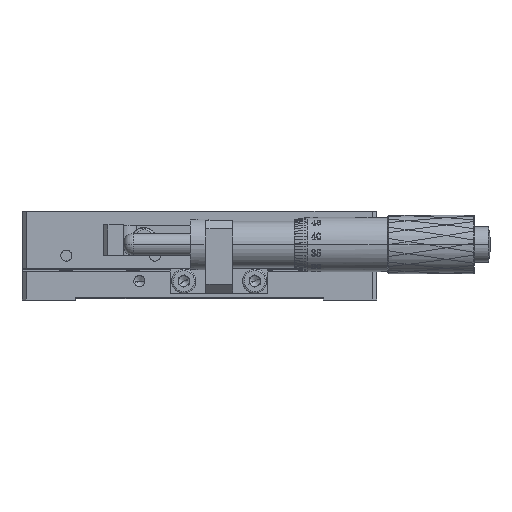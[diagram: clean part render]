
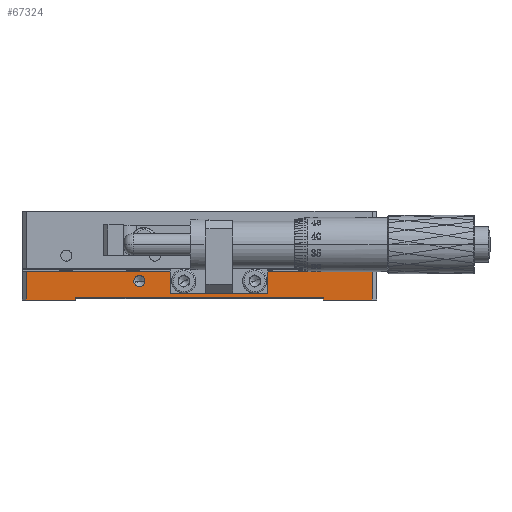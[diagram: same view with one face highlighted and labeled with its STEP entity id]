
A CAD part, top view. The second image highlights one B-rep face of the part: STEP entity #67324.
In plain terms, the highlighted planar face has unit normal (0, 0, 1).
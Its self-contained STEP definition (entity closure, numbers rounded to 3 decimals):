
#854 = AXIS2_PLACEMENT_3D ( 'NONE', #89553, #21684, #29409 ) ;
#2531 = DIRECTION ( 'NONE',  ( -1., 0., 0. ) ) ;
#2797 = ORIENTED_EDGE ( 'NONE', *, *, #25176, .F. ) ;
#3183 = CARTESIAN_POINT ( 'NONE',  ( 12., 0., 40. ) ) ;
#3460 = LINE ( 'NONE', #37668, #94485 ) ;
#4424 = VERTEX_POINT ( 'NONE', #91781 ) ;
#4817 = CARTESIAN_POINT ( 'NONE',  ( 52.5, 4.25, 40. ) ) ;
#5452 = CARTESIAN_POINT ( 'NONE',  ( 79., 0., 40. ) ) ;
#6127 = VERTEX_POINT ( 'NONE', #47166 ) ;
#7877 = EDGE_LOOP ( 'NONE', ( #18644, #69482, #27475, #84755, #21896, #84963, #73230, #12005 ) ) ;
#8517 = DIRECTION ( 'NONE',  ( 0., 0., -1. ) ) ;
#10069 = VERTEX_POINT ( 'NONE', #41362 ) ;
#12005 = ORIENTED_EDGE ( 'NONE', *, *, #53222, .T. ) ;
#13372 = CIRCLE ( 'NONE', #90975, 1.25 ) ;
#13737 = DIRECTION ( 'NONE',  ( 0., 1., 0. ) ) ;
#15123 = CARTESIAN_POINT ( 'NONE',  ( 26.5, 4.25, 40. ) ) ;
#16077 = DIRECTION ( 'NONE',  ( 0., -1., 0. ) ) ;
#16090 = VECTOR ( 'NONE', #90439, 1000. ) ;
#16498 = EDGE_CURVE ( 'NONE', #107405, #102948, #62332, .T. ) ;
#17072 = VECTOR ( 'NONE', #16077, 1000. ) ;
#17125 = AXIS2_PLACEMENT_3D ( 'NONE', #19955, #53602, #28237 ) ;
#17549 = AXIS2_PLACEMENT_3D ( 'NONE', #19476, #85697, #18937 ) ;
#17604 = ORIENTED_EDGE ( 'NONE', *, *, #50408, .F. ) ;
#18228 = EDGE_CURVE ( 'NONE', #95297, #4424, #47014, .T. ) ;
#18644 = ORIENTED_EDGE ( 'NONE', *, *, #48391, .F. ) ;
#18937 = DIRECTION ( 'NONE',  ( 1., 0., 0. ) ) ;
#19336 = CARTESIAN_POINT ( 'NONE',  ( 79., 6.5, 40. ) ) ;
#19476 = CARTESIAN_POINT ( 'NONE',  ( 36.5, 4.25, 40. ) ) ;
#19955 = CARTESIAN_POINT ( 'NONE',  ( 26.5, 4.25, 40. ) ) ;
#20351 = AXIS2_PLACEMENT_3D ( 'NONE', #4817, #79292, #95883 ) ;
#20521 = CARTESIAN_POINT ( 'NONE',  ( 80., 0.5, 40. ) ) ;
#20743 = CARTESIAN_POINT ( 'NONE',  ( 1., 6.5, 40. ) ) ;
#21684 = DIRECTION ( 'NONE',  ( 0., 0., 1. ) ) ;
#21886 = EDGE_CURVE ( 'NONE', #52886, #102948, #63951, .T. ) ;
#21896 = ORIENTED_EDGE ( 'NONE', *, *, #16498, .F. ) ;
#22173 = CIRCLE ( 'NONE', #20351, 1.25 ) ;
#23246 = VERTEX_POINT ( 'NONE', #48109 ) ;
#24391 = CARTESIAN_POINT ( 'NONE',  ( 68., 0.5, 40. ) ) ;
#24934 = CARTESIAN_POINT ( 'NONE',  ( 53.75, 4.25, 40. ) ) ;
#25101 = FACE_OUTER_BOUND ( 'NONE', #7877, .T. ) ;
#25176 = EDGE_CURVE ( 'NONE', #27927, #10069, #93331, .T. ) ;
#26722 = CARTESIAN_POINT ( 'NONE',  ( 68., 0.5, 40. ) ) ;
#27475 = ORIENTED_EDGE ( 'NONE', *, *, #52875, .T. ) ;
#27927 = VERTEX_POINT ( 'NONE', #80360 ) ;
#28237 = DIRECTION ( 'NONE',  ( 1., 0., 0. ) ) ;
#29409 = DIRECTION ( 'NONE',  ( 1., 0., 0. ) ) ;
#29976 = DIRECTION ( 'NONE',  ( 0., 0., 1. ) ) ;
#34647 = VERTEX_POINT ( 'NONE', #24934 ) ;
#36971 = VERTEX_POINT ( 'NONE', #89279 ) ;
#37111 = EDGE_LOOP ( 'NONE', ( #74254, #74432 ) ) ;
#37668 = CARTESIAN_POINT ( 'NONE',  ( 80., 0., 40. ) ) ;
#39162 = DIRECTION ( 'NONE',  ( -1., 0., 0. ) ) ;
#41362 = CARTESIAN_POINT ( 'NONE',  ( 37.75, 4.25, 40. ) ) ;
#43246 = FACE_BOUND ( 'NONE', #69553, .T. ) ;
#43809 = VECTOR ( 'NONE', #60371, 1000. ) ;
#45365 = DIRECTION ( 'NONE',  ( -1., 0., 0. ) ) ;
#47014 = LINE ( 'NONE', #20521, #71888 ) ;
#47157 = CIRCLE ( 'NONE', #17125, 1.25 ) ;
#47166 = CARTESIAN_POINT ( 'NONE',  ( 51.25, 4.25, 40. ) ) ;
#47305 = EDGE_CURVE ( 'NONE', #34647, #6127, #22173, .T. ) ;
#48109 = CARTESIAN_POINT ( 'NONE',  ( 79., 0., 40. ) ) ;
#48391 = EDGE_CURVE ( 'NONE', #23246, #62918, #3460, .T. ) ;
#48480 = LINE ( 'NONE', #5452, #53020 ) ;
#50408 = EDGE_CURVE ( 'NONE', #36971, #100946, #47157, .T. ) ;
#50421 = DIRECTION ( 'NONE',  ( 1., 0., 0. ) ) ;
#51542 = FACE_BOUND ( 'NONE', #71973, .T. ) ;
#52875 = EDGE_CURVE ( 'NONE', #71053, #52886, #61578, .T. ) ;
#52886 = VERTEX_POINT ( 'NONE', #20743 ) ;
#53020 = VECTOR ( 'NONE', #13737, 1000. ) ;
#53222 = EDGE_CURVE ( 'NONE', #95297, #62918, #100703, .T. ) ;
#53602 = DIRECTION ( 'NONE',  ( 0., 0., 1. ) ) ;
#54254 = CARTESIAN_POINT ( 'NONE',  ( 52.5, 4.25, 40. ) ) ;
#55388 = ORIENTED_EDGE ( 'NONE', *, *, #81378, .F. ) ;
#57283 = EDGE_CURVE ( 'NONE', #23246, #71053, #48480, .T. ) ;
#57459 = CARTESIAN_POINT ( 'NONE',  ( 12., 0.5, 40. ) ) ;
#58703 = DIRECTION ( 'NONE',  ( 0., 0., 1. ) ) ;
#60371 = DIRECTION ( 'NONE',  ( 0., -1., 0. ) ) ;
#61578 = LINE ( 'NONE', #104086, #93208 ) ;
#62332 = LINE ( 'NONE', #81094, #79055 ) ;
#62918 = VERTEX_POINT ( 'NONE', #96865 ) ;
#63951 = LINE ( 'NONE', #97637, #16090 ) ;
#67324 = ADVANCED_FACE ( 'NONE', ( #77455, #43246, #51542, #25101 ), #68083, .F. ) ;
#68083 = PLANE ( 'NONE',  #91981 ) ;
#68650 = EDGE_CURVE ( 'NONE', #6127, #34647, #94182, .T. ) ;
#69179 = DIRECTION ( 'NONE',  ( -1., 0., 0. ) ) ;
#69482 = ORIENTED_EDGE ( 'NONE', *, *, #57283, .T. ) ;
#69553 = EDGE_LOOP ( 'NONE', ( #86475, #2797 ) ) ;
#71053 = VERTEX_POINT ( 'NONE', #19336 ) ;
#71888 = VECTOR ( 'NONE', #45365, 1000. ) ;
#71973 = EDGE_LOOP ( 'NONE', ( #17604, #55388 ) ) ;
#73230 = ORIENTED_EDGE ( 'NONE', *, *, #18228, .F. ) ;
#74254 = ORIENTED_EDGE ( 'NONE', *, *, #47305, .F. ) ;
#74432 = ORIENTED_EDGE ( 'NONE', *, *, #68650, .F. ) ;
#74538 = LINE ( 'NONE', #57459, #17072 ) ;
#77455 = FACE_BOUND ( 'NONE', #37111, .T. ) ;
#79055 = VECTOR ( 'NONE', #39162, 1000. ) ;
#79292 = DIRECTION ( 'NONE',  ( 0., 0., 1. ) ) ;
#80360 = CARTESIAN_POINT ( 'NONE',  ( 35.25, 4.25, 40. ) ) ;
#81094 = CARTESIAN_POINT ( 'NONE',  ( 80., 0., 40. ) ) ;
#81378 = EDGE_CURVE ( 'NONE', #100946, #36971, #13372, .T. ) ;
#84755 = ORIENTED_EDGE ( 'NONE', *, *, #21886, .T. ) ;
#84963 = ORIENTED_EDGE ( 'NONE', *, *, #85212, .F. ) ;
#85212 = EDGE_CURVE ( 'NONE', #4424, #107405, #74538, .T. ) ;
#85697 = DIRECTION ( 'NONE',  ( 0., 0., 1. ) ) ;
#86250 = DIRECTION ( 'NONE',  ( -1., 0., 0. ) ) ;
#86475 = ORIENTED_EDGE ( 'NONE', *, *, #95916, .F. ) ;
#89279 = CARTESIAN_POINT ( 'NONE',  ( 27.75, 4.25, 40. ) ) ;
#89553 = CARTESIAN_POINT ( 'NONE',  ( 36.5, 4.25, 40. ) ) ;
#89563 = DIRECTION ( 'NONE',  ( 1., 0., 0. ) ) ;
#90439 = DIRECTION ( 'NONE',  ( 0., -1., 0. ) ) ;
#90975 = AXIS2_PLACEMENT_3D ( 'NONE', #15123, #58703, #50421 ) ;
#91781 = CARTESIAN_POINT ( 'NONE',  ( 12., 0.5, 40. ) ) ;
#91981 = AXIS2_PLACEMENT_3D ( 'NONE', #101766, #8517, #69179 ) ;
#93208 = VECTOR ( 'NONE', #2531, 1000. ) ;
#93331 = CIRCLE ( 'NONE', #17549, 1.25 ) ;
#94048 = CARTESIAN_POINT ( 'NONE',  ( 25.25, 4.25, 40. ) ) ;
#94182 = CIRCLE ( 'NONE', #101197, 1.25 ) ;
#94485 = VECTOR ( 'NONE', #86250, 1000. ) ;
#95297 = VERTEX_POINT ( 'NONE', #24391 ) ;
#95883 = DIRECTION ( 'NONE',  ( 1., 0., 0. ) ) ;
#95916 = EDGE_CURVE ( 'NONE', #10069, #27927, #96029, .T. ) ;
#96029 = CIRCLE ( 'NONE', #854, 1.25 ) ;
#96840 = CARTESIAN_POINT ( 'NONE',  ( 1., 0., 40. ) ) ;
#96865 = CARTESIAN_POINT ( 'NONE',  ( 68., 0., 40. ) ) ;
#97637 = CARTESIAN_POINT ( 'NONE',  ( 1., 0., 40. ) ) ;
#100703 = LINE ( 'NONE', #26722, #43809 ) ;
#100946 = VERTEX_POINT ( 'NONE', #94048 ) ;
#101197 = AXIS2_PLACEMENT_3D ( 'NONE', #54254, #29976, #89563 ) ;
#101766 = CARTESIAN_POINT ( 'NONE',  ( 80., 0., 40. ) ) ;
#102948 = VERTEX_POINT ( 'NONE', #96840 ) ;
#104086 = CARTESIAN_POINT ( 'NONE',  ( 80., 6.5, 40. ) ) ;
#107405 = VERTEX_POINT ( 'NONE', #3183 ) ;
